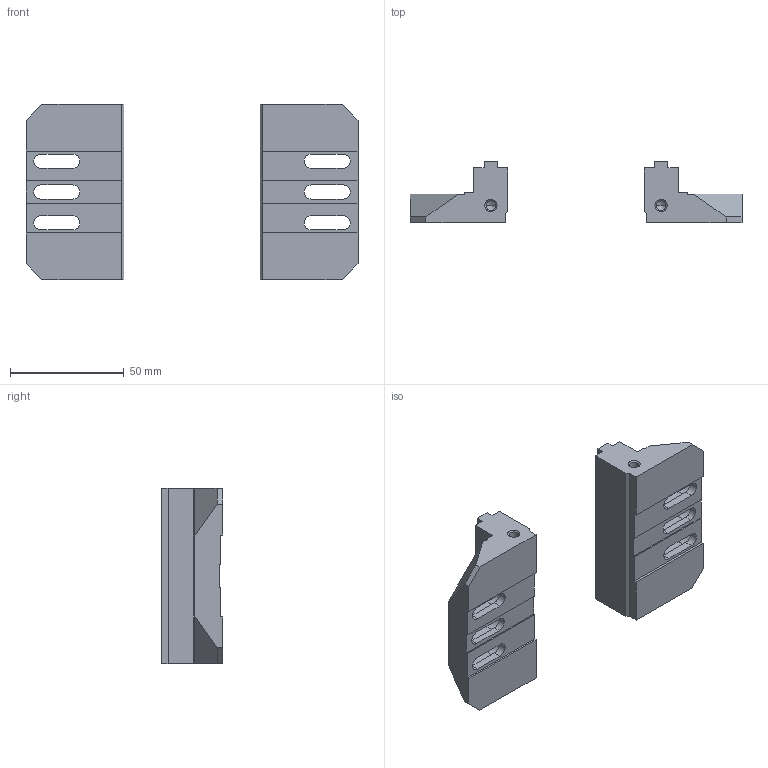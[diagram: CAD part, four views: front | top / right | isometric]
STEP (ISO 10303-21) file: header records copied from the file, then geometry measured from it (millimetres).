
FILE_DESCRIPTION (( 'STEP AP214' ), '1' );
FILE_NAME ('58077-7720.STEP', '2025-08-26T12:21:25', ( '' ), ( '' ), 'SwSTEP 2.0', 'SolidWorks 2021', '' );
FILE_SCHEMA (( 'AUTOMOTIVE_DESIGN' ));
Length unit declared in the file: millimetre
Products named in the file (2): 58077-7701; 58077-7720
Assembly tree (2 placements, depth 2):
  58077-7720
    58077-7701  x2
Bounding box: 145.76 x 27 x 77 mm (x, y, z)
Volume: 88406.3 mm3; surface area: 26325.6 mm2
Topology: 2 solids, 2 shells, 154 faces, 416 edges, 268 vertices
Faces by surface type: plane 98, cylinder 40, cone 16
Entity records: 2726 total; most frequent: CARTESIAN_POINT 420, DIRECTION 414, ORIENTED_EDGE 408, EDGE_CURVE 204, VECTOR 158, LINE 158, VERTEX_POINT 134, AXIS2_PLACEMENT_3D 128
